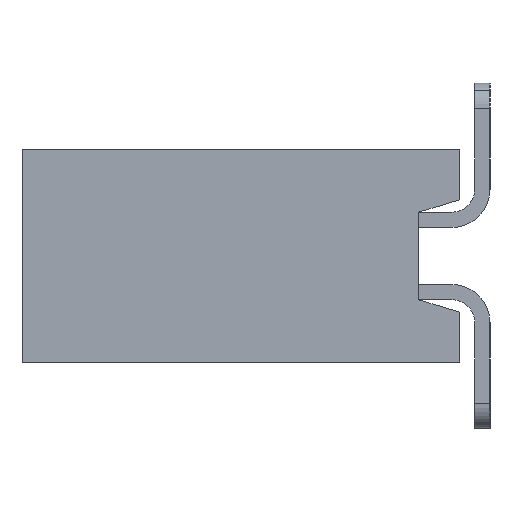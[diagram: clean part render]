
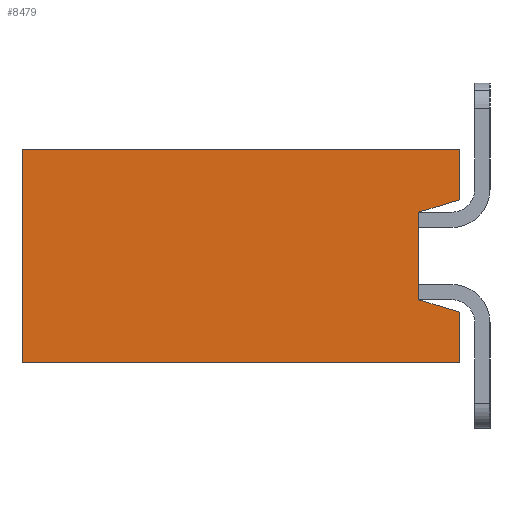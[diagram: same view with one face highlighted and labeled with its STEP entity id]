
A CAD part, left-side view. The second image highlights one B-rep face of the part: STEP entity #8479.
In plain terms, the highlighted planar face has unit normal (-1, 0, 0).
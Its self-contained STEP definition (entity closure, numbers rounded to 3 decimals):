
#181 = LINE ( 'NONE', #16350, #4184 ) ;
#438 = ORIENTED_EDGE ( 'NONE', *, *, #5902, .F. ) ;
#510 = ORIENTED_EDGE ( 'NONE', *, *, #3403, .F. ) ;
#1060 = VECTOR ( 'NONE', #1215, 1000. ) ;
#1186 = DIRECTION ( 'NONE',  ( 0., 1., 0. ) ) ;
#1215 = DIRECTION ( 'NONE',  ( 0., 0., -1. ) ) ;
#1945 = CARTESIAN_POINT ( 'NONE',  ( -5.08, -0.07, 3.724 ) ) ;
#2163 = VERTEX_POINT ( 'NONE', #3810 ) ;
#2459 = VERTEX_POINT ( 'NONE', #10002 ) ;
#2467 = DIRECTION ( 'NONE',  ( 0., -1., 0. ) ) ;
#2892 = AXIS2_PLACEMENT_3D ( 'NONE', #3836, #9224, #1186 ) ;
#3165 = EDGE_CURVE ( 'NONE', #8830, #12210, #16091, .T. ) ;
#3244 = ORIENTED_EDGE ( 'NONE', *, *, #10007, .F. ) ;
#3398 = EDGE_CURVE ( 'NONE', #15301, #5030, #10959, .T. ) ;
#3403 = EDGE_CURVE ( 'NONE', #9495, #2163, #181, .T. ) ;
#3780 = LINE ( 'NONE', #8115, #1060 ) ;
#3810 = CARTESIAN_POINT ( 'NONE',  ( -5.08, 0., 2.598 ) ) ;
#3836 = CARTESIAN_POINT ( 'NONE',  ( -5.08, -0.001, 4.202 ) ) ;
#3984 = CARTESIAN_POINT ( 'NONE',  ( -5.08, 0., 2.1 ) ) ;
#4184 = VECTOR ( 'NONE', #15021, 1000. ) ;
#4472 = LINE ( 'NONE', #9957, #7577 ) ;
#5030 = VERTEX_POINT ( 'NONE', #14219 ) ;
#5318 = VECTOR ( 'NONE', #12284, 1000. ) ;
#5902 = EDGE_CURVE ( 'NONE', #12210, #9768, #16067, .T. ) ;
#6269 = ORIENTED_EDGE ( 'NONE', *, *, #3398, .F. ) ;
#6279 = DIRECTION ( 'NONE',  ( 0., 0., -1. ) ) ;
#6421 = VECTOR ( 'NONE', #7177, 1000. ) ;
#6666 = PLANE ( 'NONE',  #2892 ) ;
#7177 = DIRECTION ( 'NONE',  ( 0., 0.956, -0.292 ) ) ;
#7357 = LINE ( 'NONE', #1945, #6421 ) ;
#7511 = EDGE_LOOP ( 'NONE', ( #11074, #3244, #438, #14728, #16257, #6269, #13085, #510 ) ) ;
#7577 = VECTOR ( 'NONE', #16937, 1000. ) ;
#8115 = CARTESIAN_POINT ( 'NONE',  ( -5.08, 0., 3.676 ) ) ;
#8479 = ADVANCED_FACE ( 'NONE', ( #13465 ), #6666, .F. ) ;
#8830 = VERTEX_POINT ( 'NONE', #9455 ) ;
#8927 = LINE ( 'NONE', #14315, #15786 ) ;
#9224 = DIRECTION ( 'NONE',  ( 1., 0., 0. ) ) ;
#9346 = CARTESIAN_POINT ( 'NONE',  ( -5.08, 0., 3.676 ) ) ;
#9455 = CARTESIAN_POINT ( 'NONE',  ( -5.08, 4.3, 4.2 ) ) ;
#9495 = VERTEX_POINT ( 'NONE', #10749 ) ;
#9768 = VERTEX_POINT ( 'NONE', #10221 ) ;
#9957 = CARTESIAN_POINT ( 'NONE',  ( -5.08, 4.3, 3.676 ) ) ;
#10002 = CARTESIAN_POINT ( 'NONE',  ( -5.08, 0.4, 3.58 ) ) ;
#10007 = EDGE_CURVE ( 'NONE', #9768, #2459, #7357, .T. ) ;
#10221 = CARTESIAN_POINT ( 'NONE',  ( -5.08, 0., 3.702 ) ) ;
#10337 = EDGE_CURVE ( 'NONE', #2163, #15301, #3780, .T. ) ;
#10749 = CARTESIAN_POINT ( 'NONE',  ( -5.08, 0.4, 2.72 ) ) ;
#10959 = LINE ( 'NONE', #16259, #5318 ) ;
#11074 = ORIENTED_EDGE ( 'NONE', *, *, #13893, .F. ) ;
#12210 = VERTEX_POINT ( 'NONE', #12777 ) ;
#12284 = DIRECTION ( 'NONE',  ( 0., 1., 0. ) ) ;
#12777 = CARTESIAN_POINT ( 'NONE',  ( -5.08, 0., 4.2 ) ) ;
#13085 = ORIENTED_EDGE ( 'NONE', *, *, #10337, .F. ) ;
#13465 = FACE_OUTER_BOUND ( 'NONE', #7511, .T. ) ;
#13893 = EDGE_CURVE ( 'NONE', #2459, #9495, #8927, .T. ) ;
#14219 = CARTESIAN_POINT ( 'NONE',  ( -5.08, 4.3, 2.1 ) ) ;
#14315 = CARTESIAN_POINT ( 'NONE',  ( -5.08, 0.4, 3.891 ) ) ;
#14576 = VECTOR ( 'NONE', #2467, 1000. ) ;
#14728 = ORIENTED_EDGE ( 'NONE', *, *, #3165, .F. ) ;
#14736 = DIRECTION ( 'NONE',  ( 0., 0., -1. ) ) ;
#15021 = DIRECTION ( 'NONE',  ( 0., -0.956, -0.292 ) ) ;
#15301 = VERTEX_POINT ( 'NONE', #3984 ) ;
#15786 = VECTOR ( 'NONE', #6279, 1000. ) ;
#15831 = EDGE_CURVE ( 'NONE', #5030, #8830, #4472, .T. ) ;
#15833 = CARTESIAN_POINT ( 'NONE',  ( -5.08, 0., 4.2 ) ) ;
#16067 = LINE ( 'NONE', #9346, #16793 ) ;
#16091 = LINE ( 'NONE', #15833, #14576 ) ;
#16257 = ORIENTED_EDGE ( 'NONE', *, *, #15831, .F. ) ;
#16259 = CARTESIAN_POINT ( 'NONE',  ( -5.08, 0., 2.1 ) ) ;
#16350 = CARTESIAN_POINT ( 'NONE',  ( -5.08, 0.424, 2.727 ) ) ;
#16793 = VECTOR ( 'NONE', #14736, 1000. ) ;
#16937 = DIRECTION ( 'NONE',  ( 0., 0., 1. ) ) ;
